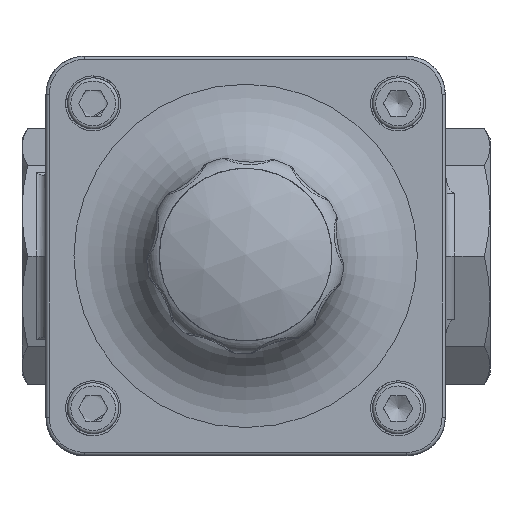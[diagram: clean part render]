
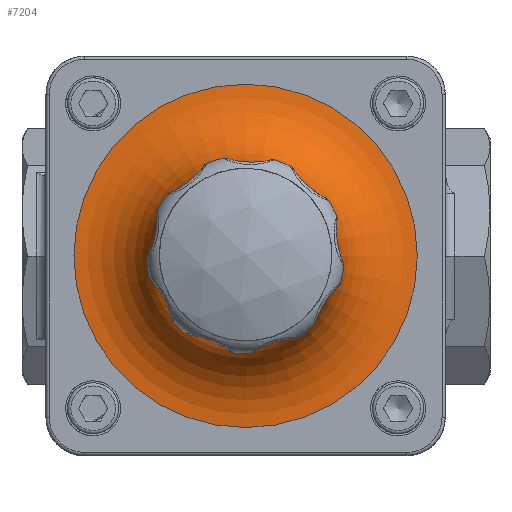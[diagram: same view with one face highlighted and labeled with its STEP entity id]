
A CAD part, top view. The second image highlights one B-rep face of the part: STEP entity #7204.
In plain terms, the highlighted toroidal (fillet/blend) face has major radius 53.75 mm and minor radius 25 mm.
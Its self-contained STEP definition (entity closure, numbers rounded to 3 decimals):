
#19=TOROIDAL_SURFACE('',#7753,53.75,25.);
#575=FACE_OUTER_BOUND('',#1022,.T.);
#1022=EDGE_LOOP('',(#5207,#5208,#5209,#5210,#5211,#5212));
#1448=CIRCLE('',#7699,53.75);
#1478=CIRCLE('',#7751,28.75);
#1479=CIRCLE('',#7752,28.75);
#1480=CIRCLE('',#7754,25.);
#1890=B_SPLINE_CURVE_WITH_KNOTS('',3,(#14974,#14975,#14976,#14977,#14978,
#14979,#14980,#14981,#14982,#14983,#14984,#14985,#14986,#14987,#14988,#14989,
#14990),.UNSPECIFIED.,.F.,.F.,(4,2,2,2,3,2,2,4),(1.182,1.197,
1.287,1.37,1.421,1.501,1.586,
1.661),.UNSPECIFIED.);
#2993=VERTEX_POINT('',#13026);
#3069=VERTEX_POINT('',#14936);
#3070=VERTEX_POINT('',#14938);
#3072=VERTEX_POINT('',#14964);
#3807=EDGE_CURVE('',#2993,#2993,#1448,.T.);
#3906=EDGE_CURVE('',#3070,#3069,#1478,.T.);
#3909=EDGE_CURVE('',#3069,#3072,#1479,.T.);
#3910=EDGE_CURVE('',#2993,#3069,#1480,.T.);
#3911=EDGE_CURVE('',#3072,#3070,#1890,.T.);
#5207=ORIENTED_EDGE('',*,*,#3807,.T.);
#5208=ORIENTED_EDGE('',*,*,#3910,.T.);
#5209=ORIENTED_EDGE('',*,*,#3909,.T.);
#5210=ORIENTED_EDGE('',*,*,#3911,.T.);
#5211=ORIENTED_EDGE('',*,*,#3906,.T.);
#5212=ORIENTED_EDGE('',*,*,#3910,.F.);
#7204=ADVANCED_FACE('',(#575),#19,.F.);
#7699=AXIS2_PLACEMENT_3D('',#13027,#8659,#8660);
#7751=AXIS2_PLACEMENT_3D('',#14939,#8780,#8781);
#7752=AXIS2_PLACEMENT_3D('',#14971,#8782,#8783);
#7753=AXIS2_PLACEMENT_3D('',#14972,#8784,#8785);
#7754=AXIS2_PLACEMENT_3D('',#14973,#8786,#8787);
#8659=DIRECTION('center_axis',(0.,0.,
1.));
#8660=DIRECTION('ref_axis',(0.,1.,0.));
#8780=DIRECTION('center_axis',(0.,0.,
-1.));
#8781=DIRECTION('ref_axis',(0.,1.,0.));
#8782=DIRECTION('center_axis',(0.,0.,
-1.));
#8783=DIRECTION('ref_axis',(0.,1.,0.));
#8784=DIRECTION('center_axis',(0.,0.,
-1.));
#8785=DIRECTION('ref_axis',(0.,1.,0.));
#8786=DIRECTION('center_axis',(1.,0.,0.));
#8787=DIRECTION('ref_axis',(0.,-1.,0.));
#13026=CARTESIAN_POINT('',(71.5,-53.75,65.4));
#13027=CARTESIAN_POINT('Origin',(71.5,0.,
65.4));
#14936=CARTESIAN_POINT('',(71.5,-28.75,90.4));
#14938=CARTESIAN_POINT('',(42.817,1.963,90.4));
#14939=CARTESIAN_POINT('Origin',(71.5,0.,
90.4));
#14964=CARTESIAN_POINT('',(42.817,-1.963,90.4));
#14971=CARTESIAN_POINT('Origin',(71.5,0.,
90.4));
#14972=CARTESIAN_POINT('Origin',(71.5,0.,
90.4));
#14973=CARTESIAN_POINT('Origin',(71.5,-53.75,90.4));
#14974=CARTESIAN_POINT('Ctrl Pts',(42.817,-1.963,90.4));
#14975=CARTESIAN_POINT('Ctrl Pts',(42.815,-1.939,90.357));
#14976=CARTESIAN_POINT('Ctrl Pts',(42.814,-1.914,90.316));
#14977=CARTESIAN_POINT('Ctrl Pts',(42.8,-1.723,90.022));
#14978=CARTESIAN_POINT('Ctrl Pts',(42.782,-1.51,89.805));
#14979=CARTESIAN_POINT('Ctrl Pts',(42.751,-1.032,89.482));
#14980=CARTESIAN_POINT('Ctrl Pts',(42.738,-0.777,
89.371));
#14981=CARTESIAN_POINT('Ctrl Pts',(42.726,-0.341,
89.27));
#14982=CARTESIAN_POINT('Ctrl Pts',(42.724,-0.171,
89.25));
#14983=CARTESIAN_POINT('Ctrl Pts',(42.724,0.,
89.25));
#14984=CARTESIAN_POINT('Ctrl Pts',(42.724,0.265,89.25));
#14985=CARTESIAN_POINT('Ctrl Pts',(42.73,0.527,89.297));
#14986=CARTESIAN_POINT('Ctrl Pts',(42.751,1.044,89.486));
#14987=CARTESIAN_POINT('Ctrl Pts',(42.767,1.29,89.635));
#14988=CARTESIAN_POINT('Ctrl Pts',(42.796,1.687,89.99));
#14989=CARTESIAN_POINT('Ctrl Pts',(42.809,1.842,90.185));
#14990=CARTESIAN_POINT('Ctrl Pts',(42.817,1.963,90.4));
